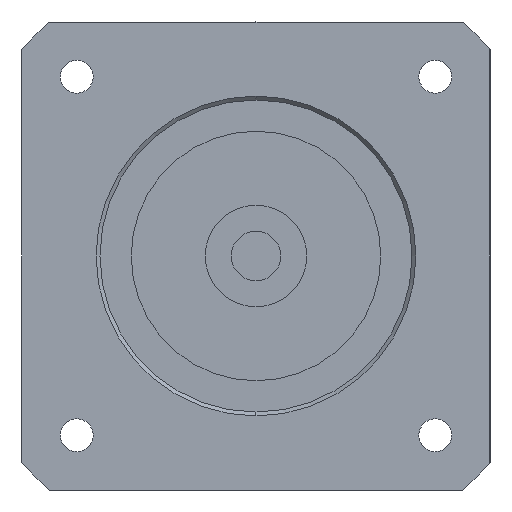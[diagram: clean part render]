
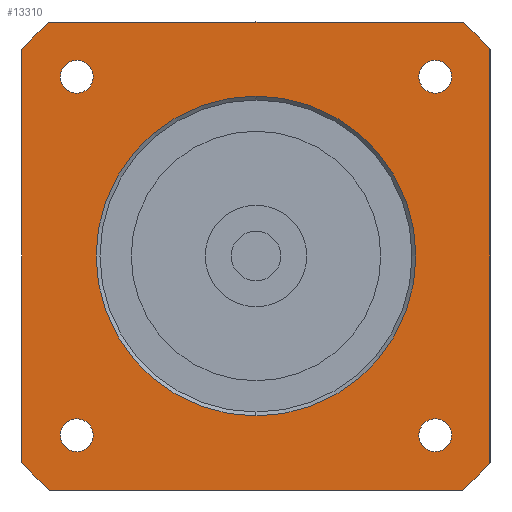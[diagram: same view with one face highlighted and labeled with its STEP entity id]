
A CAD part, left-side view. The second image highlights one B-rep face of the part: STEP entity #13310.
In plain terms, the highlighted planar face has unit normal (-1, 0, 0) as drawn and (0, 0, -1) by its records, which use the part's own axes.
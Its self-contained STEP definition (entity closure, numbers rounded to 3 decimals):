
#8640=CARTESIAN_POINT('',(22.981,-20.881,-35.));
#8650=VERTEX_POINT('',#8640);
#8830=CARTESIAN_POINT('',(22.981,-25.081,-35.));
#8840=VERTEX_POINT('',#8830);
#8870=CARTESIAN_POINT('',(22.981,-22.981,-35.));
#8880=DIRECTION('',(0.,0.,-1.));
#8890=DIRECTION('',(1.,0.,0.));
#8900=AXIS2_PLACEMENT_3D('',#8870,#8880,#8890);
#8910=CIRCLE('',#8900,2.1);
#8920=CARTESIAN_POINT('',(25.081,-22.981,-35.));
#8930=VERTEX_POINT('',#8920);
#8940=EDGE_CURVE('',#8930,#8840,#8910,.T.);
#8960=EDGE_CURVE('',#8650,#8930,#8910,.T.);
#9100=CARTESIAN_POINT('',(22.981,25.081,-35.));
#9110=VERTEX_POINT('',#9100);
#9290=CARTESIAN_POINT('',(22.981,20.881,-35.));
#9300=VERTEX_POINT('',#9290);
#9330=CARTESIAN_POINT('',(22.981,22.981,-35.));
#9340=DIRECTION('',(0.,0.,-1.));
#9350=DIRECTION('',(1.,0.,0.));
#9360=AXIS2_PLACEMENT_3D('',#9330,#9340,#9350);
#9370=CIRCLE('',#9360,2.1);
#9380=CARTESIAN_POINT('',(25.081,22.981,-35.));
#9390=VERTEX_POINT('',#9380);
#9400=EDGE_CURVE('',#9390,#9300,#9370,.T.);
#9420=EDGE_CURVE('',#9110,#9390,#9370,.T.);
#11780=CARTESIAN_POINT('',(0.,-20.5,-35.));
#11790=VERTEX_POINT('',#11780);
#11820=CARTESIAN_POINT('',(0.,0.,-35.));
#11830=DIRECTION('',(0.,0.,1.));
#11840=DIRECTION('',(0.,1.,0.));
#11850=AXIS2_PLACEMENT_3D('',#11820,#11830,#11840);
#11860=CIRCLE('',#11850,20.5);
#11870=CARTESIAN_POINT('',(0.,20.5,-35.));
#11880=VERTEX_POINT('',#11870);
#11890=EDGE_CURVE('',#11790,#11880,#11860,.T.);
#12010=CARTESIAN_POINT('',(30.,30.,-35.));
#12020=DIRECTION('',(0.,0.,1.));
#12030=DIRECTION('',(0.,1.,0.));
#12040=AXIS2_PLACEMENT_3D('',#12010,#12020,#12030);
#12050=PLANE('',#12040);
#12060=CARTESIAN_POINT('',(-22.981,-22.981,-35.));
#12070=DIRECTION('',(0.,0.,-1.));
#12080=DIRECTION('',(1.,0.,0.));
#12090=AXIS2_PLACEMENT_3D('',#12060,#12070,#12080);
#12100=CIRCLE('',#12090,2.1);
#12110=CARTESIAN_POINT('',(-20.881,-22.981,-35.));
#12120=VERTEX_POINT('',#12110);
#12130=CARTESIAN_POINT('',(-22.981,-25.081,-35.));
#12140=VERTEX_POINT('',#12130);
#12150=EDGE_CURVE('',#12120,#12140,#12100,.T.);
#12160=ORIENTED_EDGE('',*,*,#12150,.F.);
#12170=CARTESIAN_POINT('',(-22.981,-20.881,-35.));
#12180=VERTEX_POINT('',#12170);
#12190=EDGE_CURVE('',#12140,#12180,#12100,.T.);
#12200=ORIENTED_EDGE('',*,*,#12190,.F.);
#12210=EDGE_CURVE('',#12180,#12120,#12100,.T.);
#12220=ORIENTED_EDGE('',*,*,#12210,.F.);
#12230=EDGE_LOOP('',(#12220,#12200,#12160));
#12240=FACE_BOUND('',#12230,.T.);
#12250=CARTESIAN_POINT('',(-22.981,22.981,-35.));
#12260=DIRECTION('',(0.,0.,-1.));
#12270=DIRECTION('',(1.,0.,0.));
#12280=AXIS2_PLACEMENT_3D('',#12250,#12260,#12270);
#12290=CIRCLE('',#12280,2.1);
#12300=CARTESIAN_POINT('',(-20.881,22.981,-35.));
#12310=VERTEX_POINT('',#12300);
#12320=CARTESIAN_POINT('',(-22.981,20.881,-35.));
#12330=VERTEX_POINT('',#12320);
#12340=EDGE_CURVE('',#12310,#12330,#12290,.T.);
#12350=ORIENTED_EDGE('',*,*,#12340,.F.);
#12360=CARTESIAN_POINT('',(-22.981,25.081,-35.));
#12370=VERTEX_POINT('',#12360);
#12380=EDGE_CURVE('',#12330,#12370,#12290,.T.);
#12390=ORIENTED_EDGE('',*,*,#12380,.F.);
#12400=EDGE_CURVE('',#12370,#12310,#12290,.T.);
#12410=ORIENTED_EDGE('',*,*,#12400,.F.);
#12420=EDGE_LOOP('',(#12410,#12390,#12350));
#12430=FACE_BOUND('',#12420,.T.);
#12440=ORIENTED_EDGE('',*,*,#9400,.F.);
#12450=EDGE_CURVE('',#9300,#9110,#9370,.T.);
#12460=ORIENTED_EDGE('',*,*,#12450,.F.);
#12470=ORIENTED_EDGE('',*,*,#9420,.F.);
#12480=EDGE_LOOP('',(#12470,#12460,#12440));
#12490=FACE_BOUND('',#12480,.T.);
#12500=ORIENTED_EDGE('',*,*,#8940,.F.);
#12510=EDGE_CURVE('',#8840,#8650,#8910,.T.);
#12520=ORIENTED_EDGE('',*,*,#12510,.F.);
#12530=ORIENTED_EDGE('',*,*,#8960,.F.);
#12540=EDGE_LOOP('',(#12530,#12520,#12500));
#12550=FACE_BOUND('',#12540,.T.);
#12560=EDGE_CURVE('',#11880,#11790,#11860,.T.);
#12570=ORIENTED_EDGE('',*,*,#12560,.T.);
#12580=ORIENTED_EDGE('',*,*,#11890,.T.);
#12590=EDGE_LOOP('',(#12580,#12570));
#12600=FACE_BOUND('',#12590,.T.);
#12610=CARTESIAN_POINT('',(-30.,30.,-35.));
#12620=DIRECTION('',(0.,-1.,0.));
#12630=VECTOR('',#12620,1000.);
#12640=LINE('',#12610,#12630);
#12650=CARTESIAN_POINT('',(-30.,26.458,-35.));
#12660=VERTEX_POINT('',#12650);
#12670=CARTESIAN_POINT('',(-30.,-26.458,-35.));
#12680=VERTEX_POINT('',#12670);
#12690=EDGE_CURVE('',#12660,#12680,#12640,.T.);
#12700=ORIENTED_EDGE('',*,*,#12690,.F.);
#12710=CARTESIAN_POINT('',(0.,0.,
-35.));
#12720=DIRECTION('',(0.,0.,-1.));
#12730=DIRECTION('',(-1.,0.,0.));
#12740=AXIS2_PLACEMENT_3D('',#12710,#12720,#12730);
#12750=CIRCLE('',#12740,40.);
#12760=CARTESIAN_POINT('',(-26.458,-30.,-35.));
#12770=VERTEX_POINT('',#12760);
#12780=EDGE_CURVE('',#12770,#12680,#12750,.T.);
#12790=ORIENTED_EDGE('',*,*,#12780,.T.);
#12800=CARTESIAN_POINT('',(-30.,-30.,-35.));
#12810=DIRECTION('',(1.,0.,0.));
#12820=VECTOR('',#12810,1000.);
#12830=LINE('',#12800,#12820);
#12840=CARTESIAN_POINT('',(26.458,-30.,-35.));
#12850=VERTEX_POINT('',#12840);
#12860=EDGE_CURVE('',#12770,#12850,#12830,.T.);
#12870=ORIENTED_EDGE('',*,*,#12860,.F.);
#12880=CARTESIAN_POINT('',(0.,0.,
-35.));
#12890=DIRECTION('',(0.,0.,-1.));
#12900=DIRECTION('',(-1.,0.,0.));
#12910=AXIS2_PLACEMENT_3D('',#12880,#12890,#12900);
#12920=CIRCLE('',#12910,40.);
#12930=CARTESIAN_POINT('',(30.,-26.458,-35.));
#12940=VERTEX_POINT('',#12930);
#12950=EDGE_CURVE('',#12940,#12850,#12920,.T.);
#12960=ORIENTED_EDGE('',*,*,#12950,.T.);
#12970=CARTESIAN_POINT('',(30.,-30.,-35.));
#12980=DIRECTION('',(0.,1.,0.));
#12990=VECTOR('',#12980,1000.);
#13000=LINE('',#12970,#12990);
#13010=CARTESIAN_POINT('',(30.,26.458,-35.));
#13020=VERTEX_POINT('',#13010);
#13030=EDGE_CURVE('',#12940,#13020,#13000,.T.);
#13040=ORIENTED_EDGE('',*,*,#13030,.F.);
#13050=CARTESIAN_POINT('',(0.,0.,
-35.));
#13060=DIRECTION('',(0.,0.,-1.));
#13070=DIRECTION('',(-1.,0.,0.));
#13080=AXIS2_PLACEMENT_3D('',#13050,#13060,#13070);
#13090=CIRCLE('',#13080,40.);
#13100=CARTESIAN_POINT('',(26.458,30.,-35.));
#13110=VERTEX_POINT('',#13100);
#13120=EDGE_CURVE('',#13110,#13020,#13090,.T.);
#13130=ORIENTED_EDGE('',*,*,#13120,.T.);
#13140=CARTESIAN_POINT('',(30.,30.,-35.));
#13150=DIRECTION('',(-1.,0.,0.));
#13160=VECTOR('',#13150,1000.);
#13170=LINE('',#13140,#13160);
#13180=CARTESIAN_POINT('',(-26.458,30.,-35.));
#13190=VERTEX_POINT('',#13180);
#13200=EDGE_CURVE('',#13110,#13190,#13170,.T.);
#13210=ORIENTED_EDGE('',*,*,#13200,.F.);
#13220=CARTESIAN_POINT('',(0.,0.,
-35.));
#13230=DIRECTION('',(0.,0.,-1.));
#13240=DIRECTION('',(-1.,0.,0.));
#13250=AXIS2_PLACEMENT_3D('',#13220,#13230,#13240);
#13260=CIRCLE('',#13250,40.);
#13270=EDGE_CURVE('',#12660,#13190,#13260,.T.);
#13280=ORIENTED_EDGE('',*,*,#13270,.T.);
#13290=EDGE_LOOP('',(#13280,#13210,#13130,#13040,#12960,#12870,#12790,
#12700));
#13300=FACE_OUTER_BOUND('',#13290,.T.);
#13310=ADVANCED_FACE('',(#12240,#12430,#12490,#12550,#12600,#13300),
#12050,.F.);
